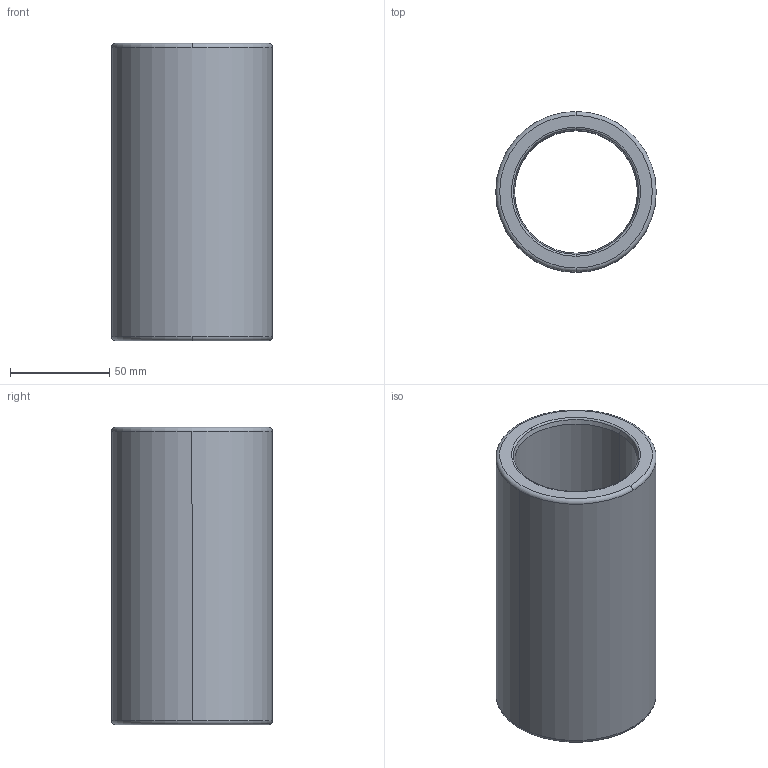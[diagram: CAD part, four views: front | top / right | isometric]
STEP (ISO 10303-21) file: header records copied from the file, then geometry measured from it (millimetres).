
FILE_DESCRIPTION((''),'2;1');
FILE_NAME('B30_050_150.stp','2009-01-12T10:57:31',(''),(''),'Mechanical Desktop 2009','Mechanical Desktop 2009',', , ');
FILE_SCHEMA(('CONFIG_CONTROL_DESIGN'));
Length unit declared in the file: millimetre
Products named in the file (2): Product; blmdl1
Assembly tree (1 placements, depth 2):
  Product
    blmdl1
Bounding box: 80.98 x 80.98 x 150 mm (x, y, z)
Volume: 319391.2 mm3; surface area: 70841.4 mm2
Topology: 1 solids, 1 shells, 18 faces, 48 edges, 32 vertices
Faces by surface type: torus 8, cylinder 4, cone 4, plane 2
Entity records: 705 total; most frequent: DIRECTION 128, CARTESIAN_POINT 100, ORIENTED_EDGE 96, AXIS2_PLACEMENT_3D 60, EDGE_CURVE 48, CIRCLE 40, VERTEX_POINT 32, EDGE_LOOP 20
